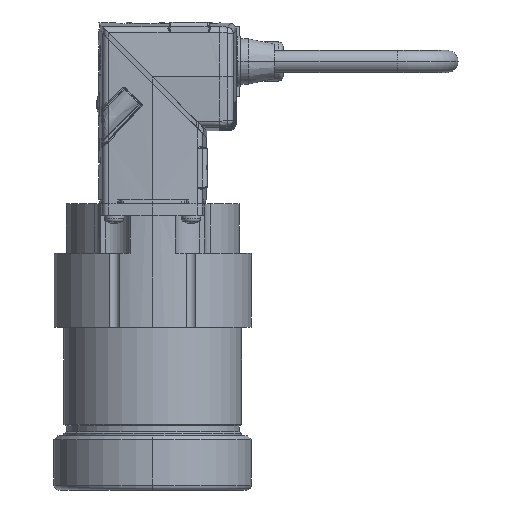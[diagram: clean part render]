
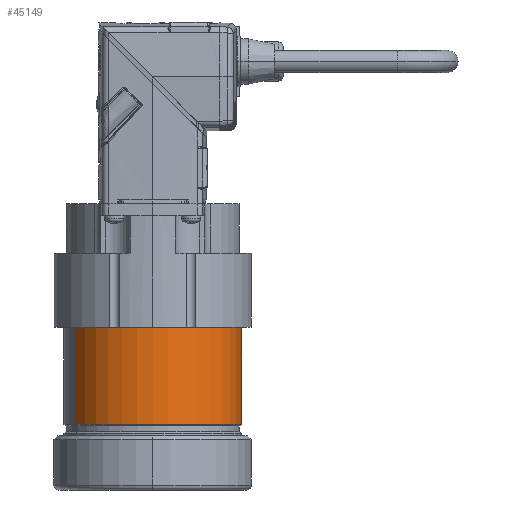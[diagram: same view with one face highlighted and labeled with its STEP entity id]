
A CAD part, left-side view. The second image highlights one B-rep face of the part: STEP entity #45149.
In plain terms, the highlighted cylindrical face has radius 18 mm (diameter 36 mm), a partial arc.
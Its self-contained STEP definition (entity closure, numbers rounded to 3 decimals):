
#1102 = CARTESIAN_POINT ( 'NONE',  ( -9., 15.588, -25.3 ) ) ;
#4597 = DIRECTION ( 'NONE',  ( 0., 0., -1. ) ) ;
#4896 = EDGE_CURVE ( 'NONE', #48890, #26411, #36799, .T. ) ;
#5053 = VERTEX_POINT ( 'NONE', #32791 ) ;
#9265 = EDGE_CURVE ( 'NONE', #5053, #18747, #76624, .T. ) ;
#11357 = DIRECTION ( 'NONE',  ( 0., 0., -1. ) ) ;
#11384 = VERTEX_POINT ( 'NONE', #65440 ) ;
#11609 = CARTESIAN_POINT ( 'NONE',  ( 9., -15.588, -25.3 ) ) ;
#12215 = EDGE_CURVE ( 'NONE', #18747, #11384, #74470, .T. ) ;
#13239 = ORIENTED_EDGE ( 'NONE', *, *, #20582, .T. ) ;
#17902 = EDGE_LOOP ( 'NONE', ( #69003, #37636, #38985, #62237, #13239 ) ) ;
#17991 = CARTESIAN_POINT ( 'NONE',  ( 0., 0., -12.77 ) ) ;
#18747 = VERTEX_POINT ( 'NONE', #11609 ) ;
#19032 = VECTOR ( 'NONE', #57912, 1000. ) ;
#20582 = EDGE_CURVE ( 'NONE', #11384, #26411, #31591, .T. ) ;
#21073 = VECTOR ( 'NONE', #36232, 1000. ) ;
#23000 = CYLINDRICAL_SURFACE ( 'NONE', #32336, 18. ) ;
#26411 = VERTEX_POINT ( 'NONE', #1102 ) ;
#30133 = CARTESIAN_POINT ( 'NONE',  ( 0., 0., -45.484 ) ) ;
#30304 = CARTESIAN_POINT ( 'NONE',  ( -9., 15.588, -12.77 ) ) ;
#30668 = AXIS2_PLACEMENT_3D ( 'NONE', #46827, #11357, #52831 ) ;
#30760 = EDGE_CURVE ( 'NONE', #48890, #5053, #45500, .T. ) ;
#31566 = AXIS2_PLACEMENT_3D ( 'NONE', #39988, #4597, #46001 ) ;
#31591 = CIRCLE ( 'NONE', #31566, 18. ) ;
#32336 = AXIS2_PLACEMENT_3D ( 'NONE', #17991, #59759, #65469 ) ;
#32791 = CARTESIAN_POINT ( 'NONE',  ( 9., -15.588, -45.484 ) ) ;
#36060 = DIRECTION ( 'NONE',  ( 0.5, -0.866, 0. ) ) ;
#36232 = DIRECTION ( 'NONE',  ( 0., 0., 1. ) ) ;
#36799 = LINE ( 'NONE', #30304, #21073 ) ;
#37636 = ORIENTED_EDGE ( 'NONE', *, *, #30760, .T. ) ;
#38985 = ORIENTED_EDGE ( 'NONE', *, *, #9265, .T. ) ;
#39988 = CARTESIAN_POINT ( 'NONE',  ( 0., 0., -25.3 ) ) ;
#45149 = ADVANCED_FACE ( 'NONE', ( #54536 ), #23000, .T. ) ;
#45500 = CIRCLE ( 'NONE', #72540, 18. ) ;
#46001 = DIRECTION ( 'NONE',  ( 1., 0., 0. ) ) ;
#46827 = CARTESIAN_POINT ( 'NONE',  ( 0., 0., -25.3 ) ) ;
#48890 = VERTEX_POINT ( 'NONE', #49374 ) ;
#49374 = CARTESIAN_POINT ( 'NONE',  ( -9., 15.588, -45.484 ) ) ;
#52831 = DIRECTION ( 'NONE',  ( 1., 0., 0. ) ) ;
#54536 = FACE_OUTER_BOUND ( 'NONE', #17902, .T. ) ;
#57647 = CARTESIAN_POINT ( 'NONE',  ( 9., -15.588, -12.77 ) ) ;
#57912 = DIRECTION ( 'NONE',  ( 0., 0., 1. ) ) ;
#59759 = DIRECTION ( 'NONE',  ( 0., 0., 1. ) ) ;
#62237 = ORIENTED_EDGE ( 'NONE', *, *, #12215, .T. ) ;
#65440 = CARTESIAN_POINT ( 'NONE',  ( -18., 0., -25.3 ) ) ;
#65469 = DIRECTION ( 'NONE',  ( 0.5, -0.866, 0. ) ) ;
#69003 = ORIENTED_EDGE ( 'NONE', *, *, #4896, .F. ) ;
#71736 = DIRECTION ( 'NONE',  ( 0., 0., 1. ) ) ;
#72540 = AXIS2_PLACEMENT_3D ( 'NONE', #30133, #71736, #36060 ) ;
#74470 = CIRCLE ( 'NONE', #30668, 18. ) ;
#76624 = LINE ( 'NONE', #57647, #19032 ) ;
